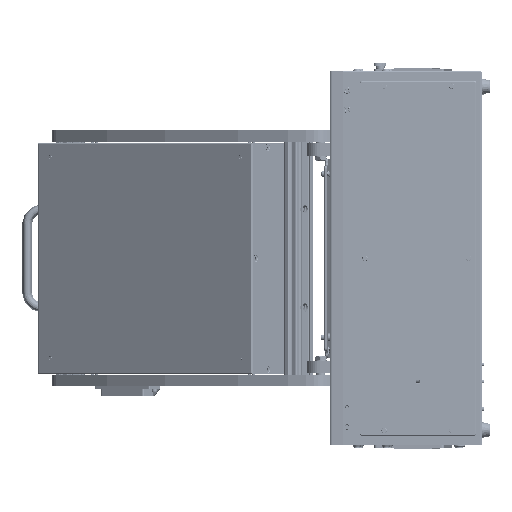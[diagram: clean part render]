
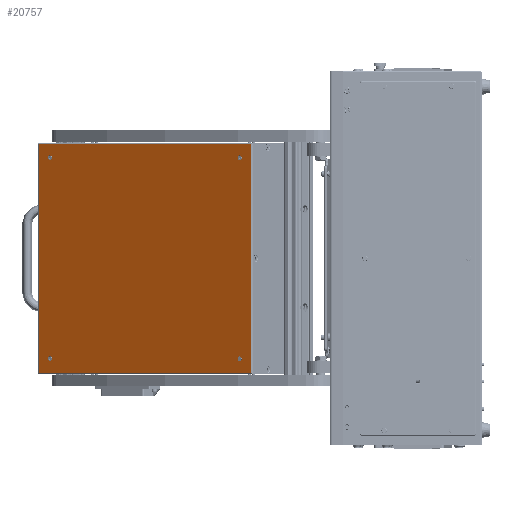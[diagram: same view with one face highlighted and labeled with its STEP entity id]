
A CAD part, left-side view. The second image highlights one B-rep face of the part: STEP entity #20757.
In plain terms, the highlighted planar face has unit normal (-0.819, 0.574, 0) as drawn and (0, -1, 0) by its records, which use the part's own axes.
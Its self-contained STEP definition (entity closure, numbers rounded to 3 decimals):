
#288 = VECTOR ( 'NONE', #20781, 1000. ) ;
#1955 = CARTESIAN_POINT ( 'NONE',  ( 151., 0., 131. ) ) ;
#2794 = DIRECTION ( 'NONE',  ( 0., 0., -1. ) ) ;
#5260 = VECTOR ( 'NONE', #215005, 1000. ) ;
#6494 = CARTESIAN_POINT ( 'NONE',  ( -151., 0., -134.15 ) ) ;
#7707 = CARTESIAN_POINT ( 'NONE',  ( 151., 0., 127.85 ) ) ;
#12843 = CIRCLE ( 'NONE', #117544, 3.15 ) ;
#14087 = CARTESIAN_POINT ( 'NONE',  ( -151., 0., 131. ) ) ;
#19007 = EDGE_CURVE ( 'NONE', #122674, #79313, #74857, .T. ) ;
#20757 = ADVANCED_FACE ( 'NONE', ( #26236, #125132, #212349, #157025, #218115 ), #138645, .T. ) ;
#20781 = DIRECTION ( 'NONE',  ( -1., 0., 0. ) ) ;
#20926 = AXIS2_PLACEMENT_3D ( 'NONE', #161516, #235411, #104602 ) ;
#22635 = DIRECTION ( 'NONE',  ( 0., -1., 0. ) ) ;
#24815 = CARTESIAN_POINT ( 'NONE',  ( 171., 0., -149. ) ) ;
#25268 = VECTOR ( 'NONE', #25615, 1000. ) ;
#25615 = DIRECTION ( 'NONE',  ( 1., 0., 0. ) ) ;
#26236 = FACE_OUTER_BOUND ( 'NONE', #169895, .T. ) ;
#28343 = LINE ( 'NONE', #24815, #25268 ) ;
#35150 = VERTEX_POINT ( 'NONE', #7707 ) ;
#41807 = AXIS2_PLACEMENT_3D ( 'NONE', #76888, #112569, #2794 ) ;
#42809 = CARTESIAN_POINT ( 'NONE',  ( -151., 0., 127.85 ) ) ;
#43650 = EDGE_CURVE ( 'NONE', #173236, #96120, #239586, .T. ) ;
#43659 = CARTESIAN_POINT ( 'NONE',  ( 0., 0., 0. ) ) ;
#44638 = EDGE_CURVE ( 'NONE', #126740, #122674, #28343, .T. ) ;
#48360 = EDGE_CURVE ( 'NONE', #96120, #173236, #124243, .T. ) ;
#48592 = EDGE_CURVE ( 'NONE', #92172, #100048, #190910, .T. ) ;
#50536 = ORIENTED_EDGE ( 'NONE', *, *, #48592, .F. ) ;
#52440 = DIRECTION ( 'NONE',  ( 0., 0., -1. ) ) ;
#59325 = CARTESIAN_POINT ( 'NONE',  ( 151., 0., -131. ) ) ;
#62038 = DIRECTION ( 'NONE',  ( 0., -1., 0. ) ) ;
#64621 = ORIENTED_EDGE ( 'NONE', *, *, #101037, .T. ) ;
#67824 = CIRCLE ( 'NONE', #113798, 3.15 ) ;
#69647 = AXIS2_PLACEMENT_3D ( 'NONE', #1955, #229385, #171024 ) ;
#74857 = LINE ( 'NONE', #141903, #5260 ) ;
#75274 = VECTOR ( 'NONE', #203554, 1000. ) ;
#75417 = ORIENTED_EDGE ( 'NONE', *, *, #43650, .F. ) ;
#76888 = CARTESIAN_POINT ( 'NONE',  ( -151., 0., -131. ) ) ;
#79313 = VERTEX_POINT ( 'NONE', #115734 ) ;
#85063 = CARTESIAN_POINT ( 'NONE',  ( -151., 0., 131. ) ) ;
#85264 = AXIS2_PLACEMENT_3D ( 'NONE', #85063, #213427, #214203 ) ;
#87338 = DIRECTION ( 'NONE',  ( 0., -1., 0. ) ) ;
#92172 = VERTEX_POINT ( 'NONE', #6494 ) ;
#96120 = VERTEX_POINT ( 'NONE', #42809 ) ;
#98632 = EDGE_LOOP ( 'NONE', ( #50536, #98780 ) ) ;
#98780 = ORIENTED_EDGE ( 'NONE', *, *, #158337, .F. ) ;
#99608 = ORIENTED_EDGE ( 'NONE', *, *, #194116, .F. ) ;
#100048 = VERTEX_POINT ( 'NONE', #180459 ) ;
#100336 = EDGE_CURVE ( 'NONE', #160760, #169384, #67824, .T. ) ;
#101037 = EDGE_CURVE ( 'NONE', #79313, #104264, #160314, .T. ) ;
#101117 = AXIS2_PLACEMENT_3D ( 'NONE', #43659, #101249, #211848 ) ;
#101249 = DIRECTION ( 'NONE',  ( 0., -1., 0. ) ) ;
#102016 = CARTESIAN_POINT ( 'NONE',  ( 169., 0., -149. ) ) ;
#104264 = VERTEX_POINT ( 'NONE', #239892 ) ;
#104602 = DIRECTION ( 'NONE',  ( 0., 0., -1. ) ) ;
#110333 = CARTESIAN_POINT ( 'NONE',  ( 151., 0., 131. ) ) ;
#111369 = CIRCLE ( 'NONE', #69647, 3.15 ) ;
#112569 = DIRECTION ( 'NONE',  ( 0., -1., 0. ) ) ;
#112802 = VERTEX_POINT ( 'NONE', #182243 ) ;
#113798 = AXIS2_PLACEMENT_3D ( 'NONE', #59325, #22635, #226545 ) ;
#115734 = CARTESIAN_POINT ( 'NONE',  ( 169., 0., 149. ) ) ;
#117544 = AXIS2_PLACEMENT_3D ( 'NONE', #110333, #185120, #133973 ) ;
#118011 = CARTESIAN_POINT ( 'NONE',  ( -151., 0., -131. ) ) ;
#122674 = VERTEX_POINT ( 'NONE', #102016 ) ;
#124068 = ORIENTED_EDGE ( 'NONE', *, *, #44638, .T. ) ;
#124243 = CIRCLE ( 'NONE', #85264, 3.15 ) ;
#125132 = FACE_BOUND ( 'NONE', #98632, .T. ) ;
#126740 = VERTEX_POINT ( 'NONE', #158651 ) ;
#127201 = CARTESIAN_POINT ( 'NONE',  ( 151., 0., -127.85 ) ) ;
#131477 = EDGE_CURVE ( 'NONE', #169384, #160760, #226928, .T. ) ;
#133973 = DIRECTION ( 'NONE',  ( 0., 0., -1. ) ) ;
#135863 = EDGE_LOOP ( 'NONE', ( #136840, #75417 ) ) ;
#136740 = DIRECTION ( 'NONE',  ( 0., 0., -1. ) ) ;
#136840 = ORIENTED_EDGE ( 'NONE', *, *, #48360, .F. ) ;
#138645 = PLANE ( 'NONE',  #101117 ) ;
#141903 = CARTESIAN_POINT ( 'NONE',  ( 169., 0., 151. ) ) ;
#145399 = CARTESIAN_POINT ( 'NONE',  ( 151., 0., -134.15 ) ) ;
#152964 = CIRCLE ( 'NONE', #212874, 3.15 ) ;
#157025 = FACE_BOUND ( 'NONE', #159939, .T. ) ;
#157668 = ORIENTED_EDGE ( 'NONE', *, *, #19007, .T. ) ;
#158337 = EDGE_CURVE ( 'NONE', #100048, #92172, #152964, .T. ) ;
#158651 = CARTESIAN_POINT ( 'NONE',  ( -169., 0., -149. ) ) ;
#159939 = EDGE_LOOP ( 'NONE', ( #232024, #99608 ) ) ;
#160314 = LINE ( 'NONE', #224700, #288 ) ;
#160760 = VERTEX_POINT ( 'NONE', #145399 ) ;
#161516 = CARTESIAN_POINT ( 'NONE',  ( 151., 0., -131. ) ) ;
#161853 = ORIENTED_EDGE ( 'NONE', *, *, #100336, .F. ) ;
#162399 = LINE ( 'NONE', #206734, #75274 ) ;
#169384 = VERTEX_POINT ( 'NONE', #127201 ) ;
#169895 = EDGE_LOOP ( 'NONE', ( #178183, #124068, #157668, #64621 ) ) ;
#171024 = DIRECTION ( 'NONE',  ( 0., 0., -1. ) ) ;
#171131 = EDGE_LOOP ( 'NONE', ( #161853, #213649 ) ) ;
#173236 = VERTEX_POINT ( 'NONE', #205789 ) ;
#178183 = ORIENTED_EDGE ( 'NONE', *, *, #182555, .T. ) ;
#180459 = CARTESIAN_POINT ( 'NONE',  ( -151., 0., -127.85 ) ) ;
#182243 = CARTESIAN_POINT ( 'NONE',  ( 151., 0., 134.15 ) ) ;
#182555 = EDGE_CURVE ( 'NONE', #104264, #126740, #162399, .T. ) ;
#185120 = DIRECTION ( 'NONE',  ( 0., -1., 0. ) ) ;
#190910 = CIRCLE ( 'NONE', #41807, 3.15 ) ;
#194116 = EDGE_CURVE ( 'NONE', #112802, #35150, #111369, .T. ) ;
#203554 = DIRECTION ( 'NONE',  ( 0., 0., -1. ) ) ;
#205789 = CARTESIAN_POINT ( 'NONE',  ( -151., 0., 134.15 ) ) ;
#206734 = CARTESIAN_POINT ( 'NONE',  ( -169., 0., -151. ) ) ;
#210582 = AXIS2_PLACEMENT_3D ( 'NONE', #14087, #87338, #52440 ) ;
#211848 = DIRECTION ( 'NONE',  ( 0., 0., -1. ) ) ;
#212349 = FACE_BOUND ( 'NONE', #171131, .T. ) ;
#212874 = AXIS2_PLACEMENT_3D ( 'NONE', #118011, #62038, #136740 ) ;
#213427 = DIRECTION ( 'NONE',  ( 0., -1., 0. ) ) ;
#213649 = ORIENTED_EDGE ( 'NONE', *, *, #131477, .F. ) ;
#214203 = DIRECTION ( 'NONE',  ( 0., 0., -1. ) ) ;
#215005 = DIRECTION ( 'NONE',  ( 0., 0., 1. ) ) ;
#218115 = FACE_BOUND ( 'NONE', #135863, .T. ) ;
#220644 = EDGE_CURVE ( 'NONE', #35150, #112802, #12843, .T. ) ;
#224700 = CARTESIAN_POINT ( 'NONE',  ( -171., 0., 149. ) ) ;
#226545 = DIRECTION ( 'NONE',  ( 0., 0., -1. ) ) ;
#226928 = CIRCLE ( 'NONE', #20926, 3.15 ) ;
#229385 = DIRECTION ( 'NONE',  ( 0., -1., 0. ) ) ;
#232024 = ORIENTED_EDGE ( 'NONE', *, *, #220644, .F. ) ;
#235411 = DIRECTION ( 'NONE',  ( 0., -1., 0. ) ) ;
#239586 = CIRCLE ( 'NONE', #210582, 3.15 ) ;
#239892 = CARTESIAN_POINT ( 'NONE',  ( -169., 0., 149. ) ) ;
